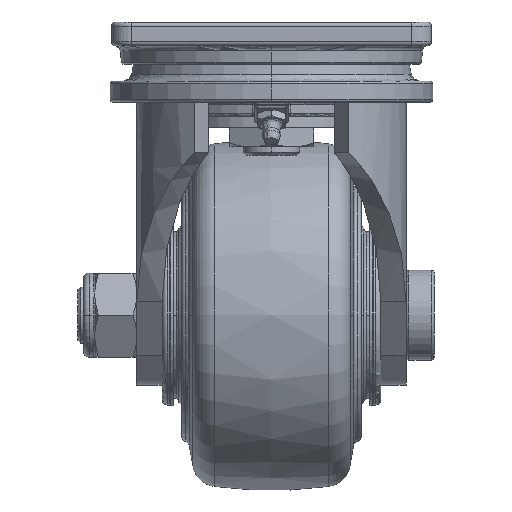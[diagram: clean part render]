
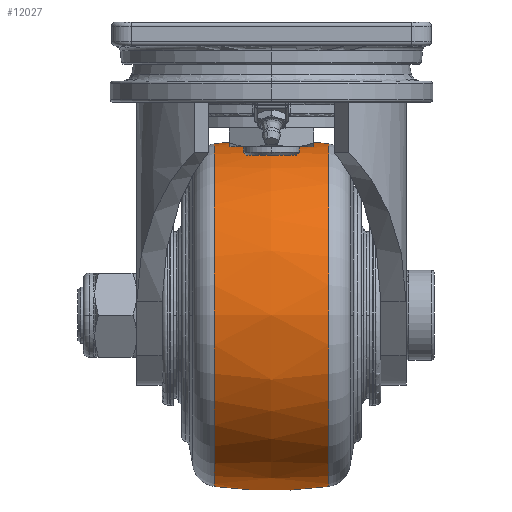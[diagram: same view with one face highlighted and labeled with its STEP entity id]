
A CAD part, left-side view. The second image highlights one B-rep face of the part: STEP entity #12027.
In plain terms, the highlighted free-form (B-spline) face has degree [2, 2] with [3, 9] control points.
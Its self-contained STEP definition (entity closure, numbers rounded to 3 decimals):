
#2614=CARTESIAN_POINT('',(44.195,-20.406,-13.394));
#2615=VERTEX_POINT('',#2614);
#2633=CARTESIAN_POINT('',(44.195,-20.406,-135.606));
#2634=VERTEX_POINT('',#2633);
#2687=CARTESIAN_POINT('',(44.195,20.406,-13.394));
#2688=VERTEX_POINT('',#2687);
#2689=CARTESIAN_POINT('',(44.195,0.,-162.));
#2690=DIRECTION('',(-1.0,0.0,0.0));
#2691=DIRECTION('',(0.0,0.0,1.0));
#2692=AXIS2_PLACEMENT_3D('',#2689,#2690,#2691);
#2693=CIRCLE('',#2692,150.0);
#2694=EDGE_CURVE('',#2615,#2688,#2693,.T.);
#2697=CARTESIAN_POINT('',(44.195,20.406,-135.606));
#2698=VERTEX_POINT('',#2697);
#2699=CARTESIAN_POINT('',(44.195,0.,13.));
#2700=DIRECTION('',(1.0,0.0,0.0));
#2701=DIRECTION('',(0.0,0.0,-1.0));
#2702=AXIS2_PLACEMENT_3D('',#2699,#2700,#2701);
#2703=CIRCLE('',#2702,150.0);
#2704=EDGE_CURVE('',#2634,#2698,#2703,.T.);
#11951=CARTESIAN_POINT('',(-16.91,20.406,-74.5));
#11952=VERTEX_POINT('',#11951);
#11953=CARTESIAN_POINT('',(44.195,20.406,-74.5));
#11954=DIRECTION('',(0.0,-1.0,0.0));
#11955=DIRECTION('',(-1.0,0.0,0.0));
#11956=AXIS2_PLACEMENT_3D('',#11953,#11954,#11955);
#11957=CIRCLE('',#11956,61.106);
#11958=EDGE_CURVE('',#11952,#2698,#11957,.T.);
#11960=CARTESIAN_POINT('',(44.195,20.406,-74.5));
#11961=DIRECTION('',(0.0,-1.0,0.0));
#11962=DIRECTION('',(-1.0,0.0,0.0));
#11963=AXIS2_PLACEMENT_3D('',#11960,#11961,#11962);
#11964=CIRCLE('',#11963,61.106);
#11965=EDGE_CURVE('',#2688,#11952,#11964,.T.);
#11970=CARTESIAN_POINT('',(44.195,20.406,-135.606));
#11971=CARTESIAN_POINT('',(44.195,0.,-138.408));
#11972=CARTESIAN_POINT('',(44.195,-20.406,-135.606));
#11973=CARTESIAN_POINT('',(-16.91,20.406,-135.606));
#11974=CARTESIAN_POINT('',(-19.712,0.,-138.408));
#11975=CARTESIAN_POINT('',(-16.91,-20.406,-135.606));
#11976=CARTESIAN_POINT('',(-16.91,20.406,-74.5));
#11977=CARTESIAN_POINT('',(-19.712,0.,-74.5));
#11978=CARTESIAN_POINT('',(-16.91,-20.406,-74.5));
#11979=CARTESIAN_POINT('',(-16.91,20.406,-13.394));
#11980=CARTESIAN_POINT('',(-19.712,0.,-10.592));
#11981=CARTESIAN_POINT('',(-16.91,-20.406,-13.394));
#11982=CARTESIAN_POINT('',(44.195,20.406,-13.394));
#11983=CARTESIAN_POINT('',(44.195,0.,-10.592));
#11984=CARTESIAN_POINT('',(44.195,-20.406,-13.394));
#11985=CARTESIAN_POINT('',(105.301,20.406,-13.394));
#11986=CARTESIAN_POINT('',(108.103,0.,-10.592));
#11987=CARTESIAN_POINT('',(105.301,-20.406,-13.394));
#11988=CARTESIAN_POINT('',(105.301,20.406,-74.5));
#11989=CARTESIAN_POINT('',(108.103,0.,-74.5));
#11990=CARTESIAN_POINT('',(105.301,-20.406,-74.5));
#11991=CARTESIAN_POINT('',(105.301,20.406,-135.606));
#11992=CARTESIAN_POINT('',(108.103,0.,-138.408));
#11993=CARTESIAN_POINT('',(105.301,-20.406,-135.606));
#11994=CARTESIAN_POINT('',(44.195,20.406,-135.606));
#11995=CARTESIAN_POINT('',(44.195,0.,-138.408));
#11996=CARTESIAN_POINT('',(44.195,-20.406,-135.606));
#12004=(BOUNDED_SURFACE()B_SPLINE_SURFACE(2,2,((#11970,#11973,#11976,#11979,#11982,#11985,#11988,#11991,#11994),(#11971,#11974,#11977,#11980,#11983,#11986,#11989,#11992,#11995),(#11972,#11975,#11978,#11981,#11984,#11987,#11990,#11993,#11996)),.UNSPECIFIED.,.F.,.T.,.U.)B_SPLINE_SURFACE_WITH_KNOTS((3,3),(3,2,2,2,3),(-0.136,0.136),(0.0,1.571,3.142,4.712,6.283),.UNSPECIFIED.)GEOMETRIC_REPRESENTATION_ITEM()RATIONAL_B_SPLINE_SURFACE(((1.0,0.707,1.0,0.707,1.0,0.707,1.0,0.707,1.0),(0.991,0.701,0.991,0.701,0.991,0.701,0.991,0.701,0.991),(1.0,0.707,1.0,0.707,1.0,0.707,1.0,0.707,1.0)))REPRESENTATION_ITEM('')SURFACE());
#12005=ORIENTED_EDGE('',*,*,#2694,.T.);
#12006=ORIENTED_EDGE('',*,*,#11965,.T.);
#12007=ORIENTED_EDGE('',*,*,#11958,.T.);
#12008=ORIENTED_EDGE('',*,*,#2704,.F.);
#12009=CARTESIAN_POINT('',(-16.91,-20.406,-74.5));
#12010=VERTEX_POINT('',#12009);
#12011=CARTESIAN_POINT('',(44.195,-20.406,-74.5));
#12012=DIRECTION('',(0.0,-1.0,0.0));
#12013=DIRECTION('',(-1.0,0.0,0.0));
#12014=AXIS2_PLACEMENT_3D('',#12011,#12012,#12013);
#12015=CIRCLE('',#12014,61.106);
#12016=EDGE_CURVE('',#12010,#2634,#12015,.T.);
#12017=ORIENTED_EDGE('',*,*,#12016,.F.);
#12018=CARTESIAN_POINT('',(44.195,-20.406,-74.5));
#12019=DIRECTION('',(0.0,-1.0,0.0));
#12020=DIRECTION('',(-1.0,0.0,0.0));
#12021=AXIS2_PLACEMENT_3D('',#12018,#12019,#12020);
#12022=CIRCLE('',#12021,61.106);
#12023=EDGE_CURVE('',#2615,#12010,#12022,.T.);
#12024=ORIENTED_EDGE('',*,*,#12023,.F.);
#12025=EDGE_LOOP('',(#12005,#12006,#12007,#12008,#12017,#12024));
#12026=FACE_OUTER_BOUND('',#12025,.T.);
#12027=ADVANCED_FACE('',(#12026),#12004,.T.);
